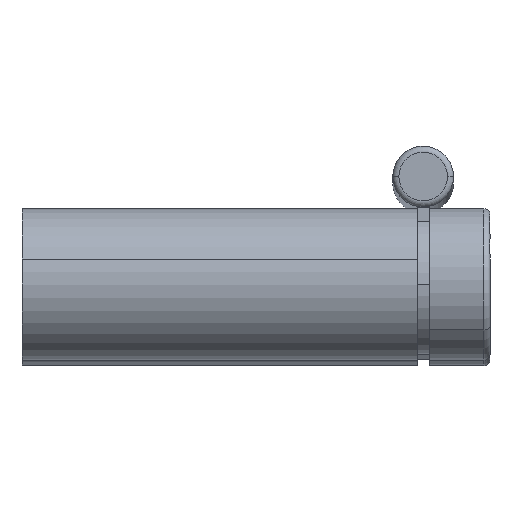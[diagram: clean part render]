
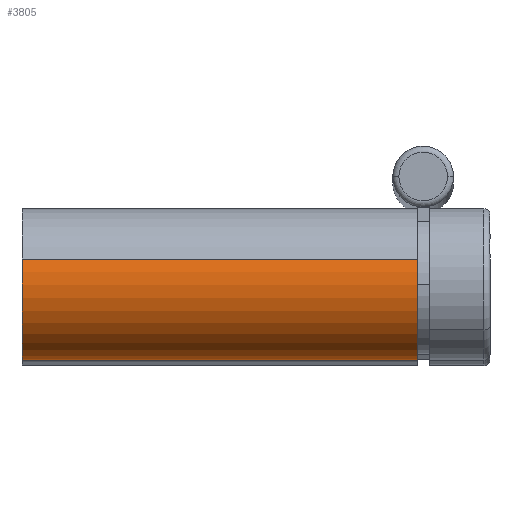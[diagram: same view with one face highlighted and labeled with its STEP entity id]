
A CAD part, top view. The second image highlights one B-rep face of the part: STEP entity #3805.
In plain terms, the highlighted cylindrical face has radius 12.5 mm (diameter 25 mm), a partial arc.
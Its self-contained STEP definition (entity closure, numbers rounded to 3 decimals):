
#109 = VERTEX_POINT ( 'NONE', #299 ) ;
#283 = DIRECTION ( 'NONE',  ( 0., 0., -1. ) ) ;
#299 = CARTESIAN_POINT ( 'NONE',  ( 0., -2., 12.5 ) ) ;
#435 = ORIENTED_EDGE ( 'NONE', *, *, #1933, .T. ) ;
#1419 = DIRECTION ( 'NONE',  ( 0., 0., -1. ) ) ;
#1434 = LINE ( 'NONE', #7001, #5407 ) ;
#1758 = VERTEX_POINT ( 'NONE', #2569 ) ;
#1890 = CYLINDRICAL_SURFACE ( 'NONE', #3889, 12.5 ) ;
#1928 = CARTESIAN_POINT ( 'NONE',  ( 0., 63., 12.5 ) ) ;
#1933 = EDGE_CURVE ( 'NONE', #1758, #5651, #1992, .T. ) ;
#1960 = DIRECTION ( 'NONE',  ( 0., -1., 0. ) ) ;
#1992 = LINE ( 'NONE', #5845, #6494 ) ;
#2337 = ORIENTED_EDGE ( 'NONE', *, *, #5536, .F. ) ;
#2454 = ORIENTED_EDGE ( 'NONE', *, *, #3373, .F. ) ;
#2520 = DIRECTION ( 'NONE',  ( 0., 0., 1. ) ) ;
#2569 = CARTESIAN_POINT ( 'NONE',  ( 0., 63., -12.5 ) ) ;
#3035 = ORIENTED_EDGE ( 'NONE', *, *, #4022, .F. ) ;
#3051 = FACE_OUTER_BOUND ( 'NONE', #4536, .T. ) ;
#3373 = EDGE_CURVE ( 'NONE', #6765, #109, #1434, .T. ) ;
#3615 = CARTESIAN_POINT ( 'NONE',  ( 0., 63., 0. ) ) ;
#3644 = CARTESIAN_POINT ( 'NONE',  ( 0., -2., -12.5 ) ) ;
#3664 = DIRECTION ( 'NONE',  ( 0., -1., 0. ) ) ;
#3722 = CARTESIAN_POINT ( 'NONE',  ( 0., -2., 0. ) ) ;
#3774 = AXIS2_PLACEMENT_3D ( 'NONE', #3722, #6392, #283 ) ;
#3805 = ADVANCED_FACE ( 'NONE', ( #3051 ), #1890, .T. ) ;
#3889 = AXIS2_PLACEMENT_3D ( 'NONE', #6950, #1960, #1419 ) ;
#3960 = CIRCLE ( 'NONE', #4892, 12.5 ) ;
#4022 = EDGE_CURVE ( 'NONE', #109, #5651, #6915, .T. ) ;
#4125 = DIRECTION ( 'NONE',  ( 0., 1., 0. ) ) ;
#4536 = EDGE_LOOP ( 'NONE', ( #2454, #2337, #435, #3035 ) ) ;
#4892 = AXIS2_PLACEMENT_3D ( 'NONE', #3615, #4125, #2520 ) ;
#5407 = VECTOR ( 'NONE', #7109, 1000. ) ;
#5536 = EDGE_CURVE ( 'NONE', #1758, #6765, #3960, .T. ) ;
#5651 = VERTEX_POINT ( 'NONE', #3644 ) ;
#5845 = CARTESIAN_POINT ( 'NONE',  ( 0., 63., -12.5 ) ) ;
#6392 = DIRECTION ( 'NONE',  ( 0., -1., 0. ) ) ;
#6494 = VECTOR ( 'NONE', #3664, 1000. ) ;
#6765 = VERTEX_POINT ( 'NONE', #1928 ) ;
#6915 = CIRCLE ( 'NONE', #3774, 12.5 ) ;
#6950 = CARTESIAN_POINT ( 'NONE',  ( 0., 63., 0. ) ) ;
#7001 = CARTESIAN_POINT ( 'NONE',  ( 0., 63., 12.5 ) ) ;
#7109 = DIRECTION ( 'NONE',  ( 0., -1., 0. ) ) ;
